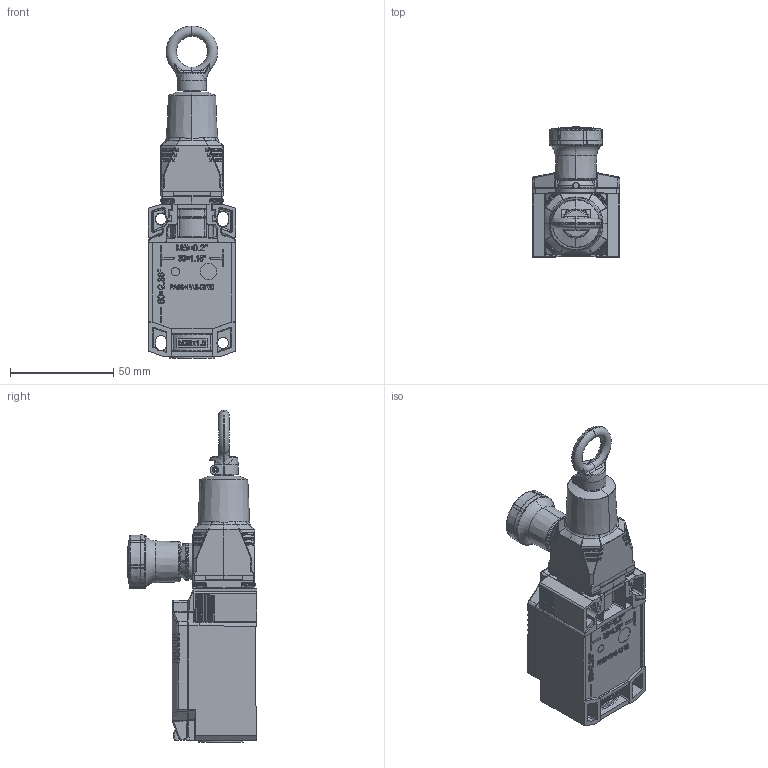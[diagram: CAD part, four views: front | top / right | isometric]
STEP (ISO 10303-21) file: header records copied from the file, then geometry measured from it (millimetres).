
FILE_DESCRIPTION((''),'2;1');
FILE_NAME('2032385','2022-02-28T11:32:33',('t.hampe'),(''),'CREO PARAMETRIC BY PTC INC, 2019292','CREO PARAMETRIC BY PTC INC, 2019292','');
FILE_SCHEMA(('AUTOMOTIVE_DESIGN { 1 0 10303 214 1 1 1 1 }'));
Products named in the file (1): 2032385
Bounding box: 42.51 x 62.83 x 160.67 mm (x, y, z)
Surface area: 36966.9 mm2 (no closed solid volume)
Topology: 0 solids, 72 shells, 2068 faces, 7647 edges, 5396 vertices
Faces by surface type: cylinder 660, plane 626, bspline 444, torus 177, sphere 90, cone 67, extrusion 4
Entity records: 150163 total; most frequent: CARTESIAN_POINT 56071, ORIENTED_EDGE 12099, PRESENTATION_STYLE_ASSIGNMENT 9692, DIRECTION 9120, STYLED_ITEM 7630, CURVE_STYLE 7558, EDGE_CURVE 7553, VERTEX_POINT 5396
